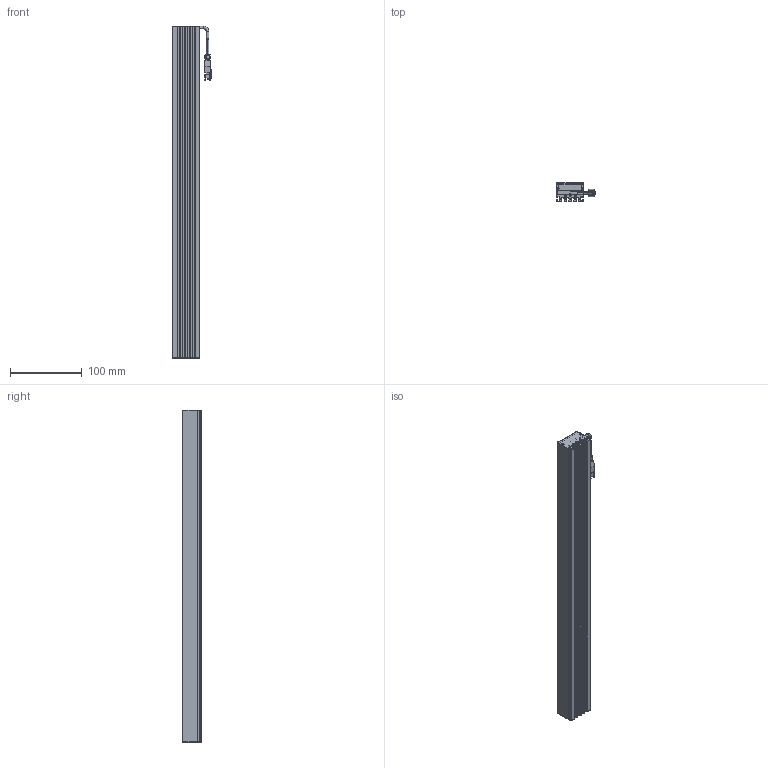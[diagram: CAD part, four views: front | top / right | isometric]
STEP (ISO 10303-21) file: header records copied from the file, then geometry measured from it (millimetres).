
FILE_DESCRIPTION (( 'STEP AP203' ), '1' );
FILE_NAME ('LBD-462L-潠眢3D芞.STEP', '2021-06-16T08:12:07', ( 'Windows 蚚誧' ), ( 'Organization' ), 'SwSTEP 2.0', 'SolidWorks 2018', '' );
FILE_SCHEMA (( 'CONFIG_CONTROL_DESIGN' ));
Length unit declared in the file: millimetre
Products named in the file (1): LBD-462L-潠眢3D芞
Bounding box: 54.16 x 27 x 462 mm (x, y, z)
Surface area: 173550.1 mm2 (no closed solid volume)
Topology: 0 solids, 8 shells, 889 faces, 2541 edges, 1653 vertices
Faces by surface type: plane 458, cylinder 369, cone 28, bspline 28, torus 6
Entity records: 29635 total; most frequent: CARTESIAN_POINT 5977, ORIENTED_EDGE 5003, DIRECTION 4968, EDGE_CURVE 2525, LINE 1676, VECTOR 1676, VERTEX_POINT 1653, AXIS2_PLACEMENT_3D 1646
